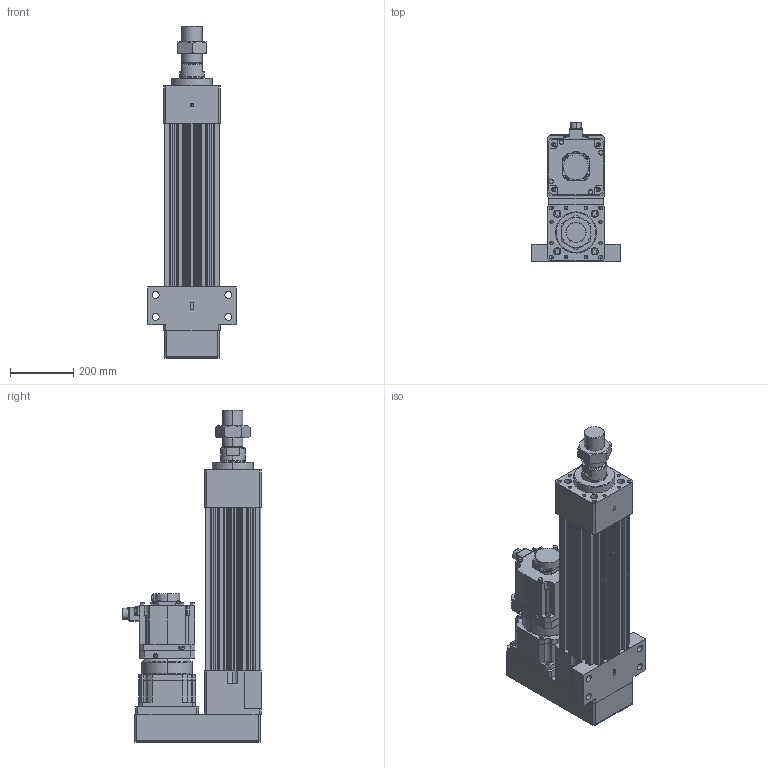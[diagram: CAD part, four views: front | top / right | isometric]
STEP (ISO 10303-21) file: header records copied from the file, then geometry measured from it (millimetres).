
FILE_DESCRIPTION (( 'STEP AP203' ), '1' );
FILE_NAME ('HES180HS-P200-W050G00-M-FFC.STEP', '2023-02-01T07:11:43', ( 'tms' ), ( '' ), 'SwSTEP 2.0', 'SolidWorks 2013', '' );
FILE_SCHEMA (( 'CONFIG_CONTROL_DESIGN' ));
Length unit declared in the file: millimetre
Products named in the file (9): P1301600001; AB1801; AB180-003[HG-SR702B]; HES180HS-P200-W050G00-M-FFC; HG-SR502; P0403600401; M64X2.0P; HES180 ROD M ST200; HES180-P200-G180-FFC
Assembly tree (8 placements, depth 3):
  HES180HS-P200-W050G00-M-FFC
    HES180-P200-G180-FFC
    HES180 ROD M ST200
    M64X2.0P
    AB180-003[HG-SR702B]
      AB1801
      P1301600001
      P0403600401
    HG-SR502
Bounding box: 280 x 438.85 x 1052 mm (x, y, z)
Volume: 25528457.5 mm3; surface area: 2127754.8 mm2
Topology: 4 solids, 19 shells, 1474 faces, 3821 edges, 2463 vertices
Faces by surface type: cylinder 686, plane 553, cone 168, bspline 63, torus 4
Entity records: 53682 total; most frequent: CARTESIAN_POINT 16162, DIRECTION 7905, ORIENTED_EDGE 7498, EDGE_CURVE 3773, AXIS2_PLACEMENT_3D 2986, VERTEX_POINT 2463, VECTOR 1933, LINE 1933
